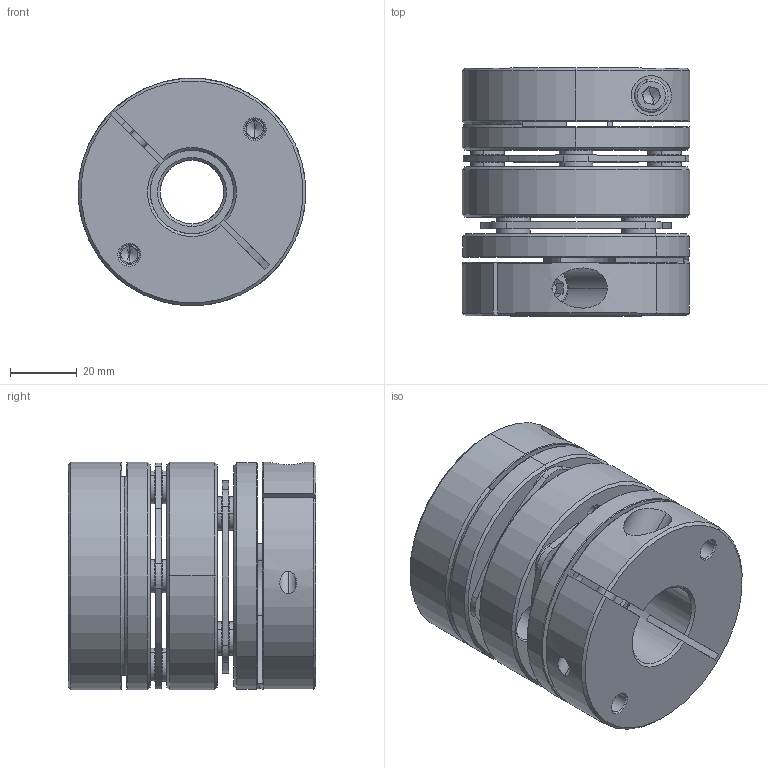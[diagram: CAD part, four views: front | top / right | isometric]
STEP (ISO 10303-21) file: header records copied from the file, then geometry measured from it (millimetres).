
FILE_DESCRIPTION (( 'STEP AP203' ), '1' );
FILE_NAME ('LD2-D68-19-25.STEP', '2021-10-26T08:30:26', ( '' ), ( '' ), 'SwSTEP 2.0', 'SolidWorks 2018', '' );
FILE_SCHEMA (( 'CONFIG_CONTROL_DESIGN' ));
Length unit declared in the file: millimetre
Products named in the file (2): 錨璃102^LD2-D68; LD2-D68-19-25
Assembly tree (1 placements, depth 2):
  LD2-D68-19-25
    錨璃102^LD2-D68
Bounding box: 68 x 74 x 68 mm (x, y, z)
Volume: 186432.8 mm3; surface area: 64387.4 mm2
Topology: 1 solids, 27 shells, 736 faces, 1708 edges, 1040 vertices
Faces by surface type: cylinder 258, cone 226, plane 222, torus 30
Entity records: 21536 total; most frequent: DIRECTION 4002, CARTESIAN_POINT 3933, ORIENTED_EDGE 3368, EDGE_CURVE 1684, AXIS2_PLACEMENT_3D 1625, VERTEX_POINT 1040, CIRCLE 885, EDGE_LOOP 872
